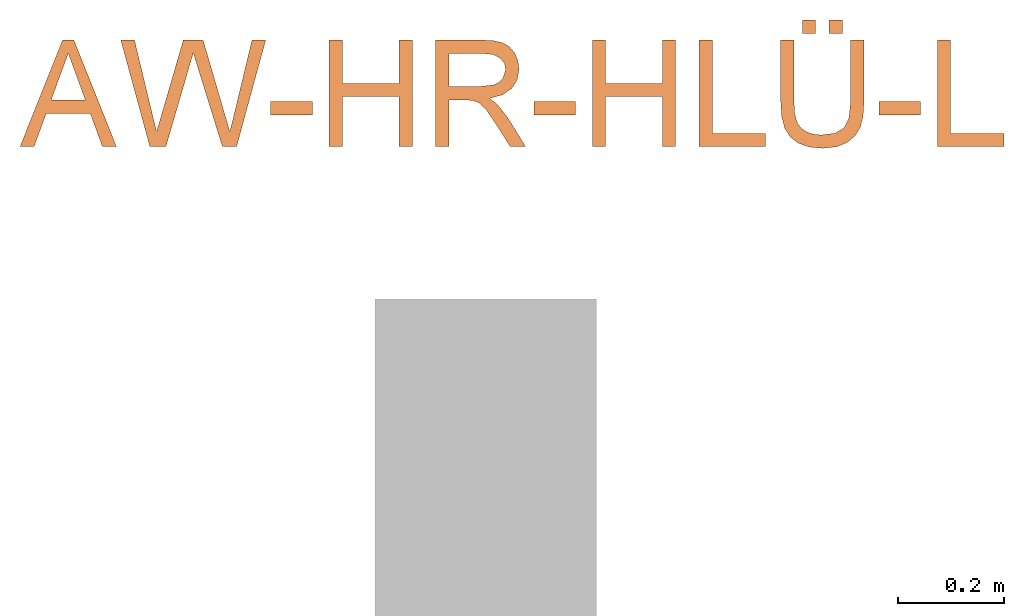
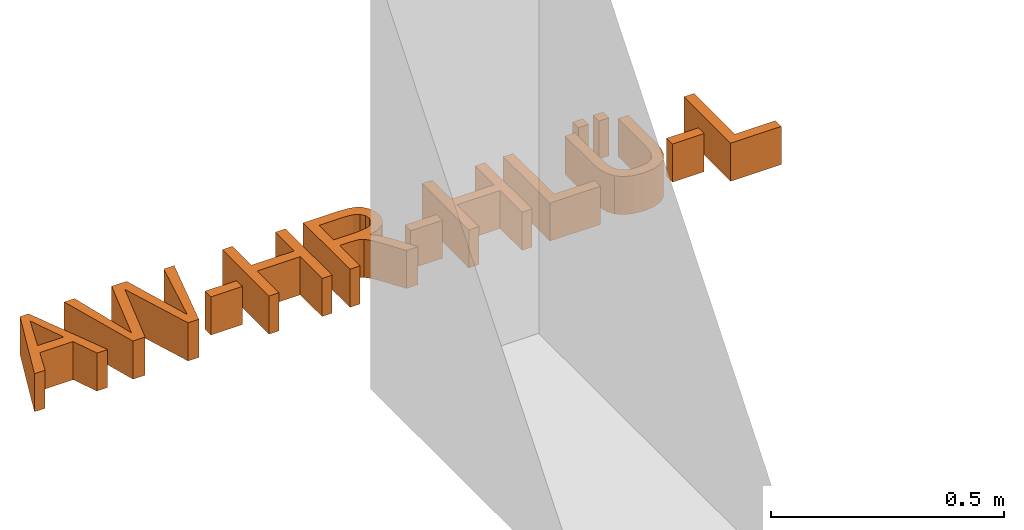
# Not in any storey, part 2 of 2: 1 proxy.
"""IFC2X3 model written with IfcOpenShell, lengths in metres."""

from ifc_helpers import new_model, entity, si_unit, converted_unit, derived_unit, direction, frame, frame_2d, origin, place, context, subcontext, project, spatial, polyline, rectangle, outline, extrude, type_object, element, save


model = new_model("IFC2X3")

# Units and contexts
model_context = context("Model", 3, precision=1e-05, world=origin(), true_north=direction((6.123031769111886e-17, 1.0)))
body_context = subcontext(model_context, "Body", "Model", "MODEL_VIEW")
ifc_project = project(units=[si_unit("LENGTHUNIT", "METRE"), si_unit("AREAUNIT", "SQUARE_METRE"), si_unit("VOLUMEUNIT", "CUBIC_METRE"), converted_unit("PLANEANGLEUNIT", "DEGREE", entity("IfcRatioMeasure", 0.017453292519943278), si_unit("PLANEANGLEUNIT", "RADIAN"), dimensions=[0, 0, 0, 0, 0, 0, 0]), si_unit("MASSUNIT", "GRAM", prefix="KILO"), derived_unit("MASSDENSITYUNIT", [(si_unit("MASSUNIT", "GRAM", prefix="KILO"), 1), (si_unit("LENGTHUNIT", "METRE"), -3)]), derived_unit("MOMENTOFINERTIAUNIT", [(si_unit("LENGTHUNIT", "METRE"), 4)]), si_unit("TIMEUNIT", "SECOND"), si_unit("FREQUENCYUNIT", "HERTZ"), si_unit("THERMODYNAMICTEMPERATUREUNIT", "DEGREE_CELSIUS"), derived_unit("THERMALTRANSMITTANCEUNIT", [(si_unit("MASSUNIT", "GRAM", prefix="KILO"), 1), (si_unit("THERMODYNAMICTEMPERATUREUNIT", "KELVIN"), -1), (si_unit("TIMEUNIT", "SECOND"), -3)]), derived_unit("VOLUMETRICFLOWRATEUNIT", [(si_unit("LENGTHUNIT", "METRE"), 3), (si_unit("TIMEUNIT", "SECOND"), -1)]), derived_unit("MASSFLOWRATEUNIT", [(si_unit("MASSUNIT", "GRAM", prefix="KILO"), 1), (si_unit("TIMEUNIT", "SECOND"), -1)]), derived_unit("ROTATIONALFREQUENCYUNIT", [(si_unit("TIMEUNIT", "SECOND"), -1)]), si_unit("ELECTRICCURRENTUNIT", "AMPERE"), si_unit("ELECTRICVOLTAGEUNIT", "VOLT"), si_unit("POWERUNIT", "WATT"), si_unit("FORCEUNIT", "NEWTON", prefix="KILO"), si_unit("ILLUMINANCEUNIT", "LUX"), si_unit("LUMINOUSFLUXUNIT", "LUMEN"), si_unit("LUMINOUSINTENSITYUNIT", "CANDELA"), derived_unit("USERDEFINED", [(si_unit("MASSUNIT", "GRAM", prefix="KILO"), -1), (si_unit("LENGTHUNIT", "METRE"), -2), (si_unit("TIMEUNIT", "SECOND"), 3), (si_unit("LUMINOUSFLUXUNIT", "LUMEN"), 1)]), derived_unit("SOUNDPOWERUNIT", [(si_unit("MASSUNIT", "GRAM", prefix="KILO"), 1), (si_unit("LENGTHUNIT", "METRE"), 2), (si_unit("TIMEUNIT", "SECOND"), -3)]), derived_unit("SOUNDPRESSUREUNIT", [(si_unit("MASSUNIT", "GRAM", prefix="KILO"), 1), (si_unit("LENGTHUNIT", "METRE"), -1), (si_unit("TIMEUNIT", "SECOND"), -2)]), derived_unit("LINEARVELOCITYUNIT", [(si_unit("LENGTHUNIT", "METRE"), 1), (si_unit("TIMEUNIT", "SECOND"), -1)]), si_unit("PRESSUREUNIT", "PASCAL"), derived_unit("USERDEFINED", [(si_unit("LENGTHUNIT", "METRE"), -2), (si_unit("MASSUNIT", "GRAM", prefix="KILO"), 1), (si_unit("TIMEUNIT", "SECOND"), -2)]), derived_unit("LINEARFORCEUNIT", [(si_unit("MASSUNIT", "GRAM", prefix="KILO"), 1), (si_unit("LENGTHUNIT", "METRE"), 1), (si_unit("TIMEUNIT", "SECOND"), -2), (si_unit("LENGTHUNIT", "METRE"), -1)]), derived_unit("PLANARFORCEUNIT", [(si_unit("MASSUNIT", "GRAM", prefix="KILO"), 1), (si_unit("LENGTHUNIT", "METRE"), 1), (si_unit("TIMEUNIT", "SECOND"), -2), (si_unit("LENGTHUNIT", "METRE"), -2)])], contexts=[model_context])

# Site
site_placement = place(None, origin())
site = spatial("IfcSite", under=ifc_project, at=site_placement, Name="Default", CompositionType="ELEMENT")

# Proxy
building_element_proxy_type = type_object("IfcBuildingElementProxyType", Name="Modelltext:600mm Arial", PredefinedType="NOTDEFINED")
proxy_placement = place(site_placement, origin())
element("IfcBuildingElementProxy", 1, at=proxy_placement, inside=site, type_object=building_element_proxy_type, Name="Modelltext:600mm Arial", ObjectType="Modelltext:600mm Arial", context=body_context, shape_type="SweptSolid", body=[
    extrude(outline(polyline([(-0.09088524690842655, -0.0659244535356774), (-0.06434869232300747, -0.0659244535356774), (-0.04139285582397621, -0.003139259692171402), (0.04135606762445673, -0.003139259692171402), (0.06436095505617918, -0.0659244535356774), (0.09089750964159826, -0.0659244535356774), (0.010699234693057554, 0.1349881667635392), (-0.01068697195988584, 0.1349881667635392), (-0.09088524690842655, -0.0659244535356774)]), holes=[polyline([(-0.03217128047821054, 0.021974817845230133), (-0.012501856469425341, 0.07568558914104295), (6.1313665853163e-06, 0.10987408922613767), (0.01408374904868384, 0.07136910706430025), (0.032183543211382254, 0.021974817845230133), (-0.03217128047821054, 0.021974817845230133)])]), frame((7.084400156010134, 24.273217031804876, 0.0)), (0.0, 0.0, 1.0), 0.1),
    extrude(outline(polyline([(-0.08129804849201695, -0.1077055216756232), (-0.050984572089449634, -0.1077055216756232), (-0.0070839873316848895, 0.042880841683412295), (0.0004698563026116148, 0.06892688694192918), (0.007189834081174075, 0.047295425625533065), (0.05535784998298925, -0.1077055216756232), (0.08218871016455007, -0.1077055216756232), (0.1370276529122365, 0.09320709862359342), (0.11112876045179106, 0.09320709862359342), (0.07904945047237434, -0.040015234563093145), (0.069533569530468, -0.07959933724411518), (0.048000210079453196, -0.00592483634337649), (0.019060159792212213, 0.09320709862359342), (-0.018267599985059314, 0.09320709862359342), (-0.05809695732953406, -0.043546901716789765), (-0.06859385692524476, -0.07959933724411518), (-0.07840404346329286, -0.038838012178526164), (-0.11018904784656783, 0.09320709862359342), (-0.1360879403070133, 0.09320709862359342), (-0.08129804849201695, -0.1077055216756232)])), frame((7.319380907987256, 24.314998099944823, 0.0)), (0.0, 0.0, 1.0), 0.1),
    extrude(rectangle(XDim=0.0784814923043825, YDim=0.02511407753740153, at=frame_2d((0.0, 2.1658022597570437e-15), x_axis=(1.0, 0.0))), frame((7.50506708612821, 24.27949555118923, 0.0)), (0.0, 0.0, 1.0), 0.1),
    extrude(outline(polyline([(-0.07848149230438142, -0.10254914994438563), (-0.0533674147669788, -0.10254914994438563), (-0.0533674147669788, -0.008371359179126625), (0.05336741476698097, -0.008371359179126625), (0.05336741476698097, -0.10254914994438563), (0.0784814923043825, -0.10254914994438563), (0.0784814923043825, 0.09836347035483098), (0.05336741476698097, 0.09836347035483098), (0.05336741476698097, 0.01674271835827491), (-0.0533674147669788, 0.01674271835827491), (-0.0533674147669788, 0.09836347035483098), (-0.07848149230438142, 0.09836347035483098), (-0.07848149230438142, -0.10254914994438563)])), frame((7.654181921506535, 24.309841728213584, 0.0)), (0.0, 0.0, 1.0), 0.1),
    extrude(outline(polyline([(-0.10313418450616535, -0.10350768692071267), (-0.07802010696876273, -0.10350768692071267), (-0.07802010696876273, -0.01560841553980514), (-0.04770663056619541, -0.01560841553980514), (-0.0331385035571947, -0.016491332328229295), (-0.021194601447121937, -0.02127379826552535), (-0.007926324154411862, -0.03429682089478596), (0.010958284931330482, -0.06186344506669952), (0.037102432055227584, -0.10350768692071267), (0.06628773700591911, -0.10350768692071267), (0.032785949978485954, -0.04906115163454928), (0.012429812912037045, -0.023211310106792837), (-0.00184400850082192, -0.012469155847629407), (0.022896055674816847, -0.005810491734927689), (0.040217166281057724, 0.006219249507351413), (0.05042589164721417, 0.022626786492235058), (0.05382880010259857, 0.04241883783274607), (0.051774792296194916, 0.05832973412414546), (0.04561276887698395, 0.07280589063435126), (0.03601104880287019, 0.08448001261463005), (0.023637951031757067, 0.09198480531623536), (0.006709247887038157, 0.09604990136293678), (-0.016559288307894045, 0.09740493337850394), (-0.10313418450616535, 0.09740493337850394), (-0.10313418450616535, -0.10350768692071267)]), holes=[polyline([(-0.07802010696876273, 0.009505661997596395), (-0.07802010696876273, 0.0722908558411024), (-0.015480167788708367, 0.0722908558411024), (0.0043915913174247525, 0.07012035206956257), (0.018095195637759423, 0.0636088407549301), (0.02605984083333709, 0.053737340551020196), (0.028714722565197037, 0.04148687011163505), (0.02314744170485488, 0.024441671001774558), (0.016292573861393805, 0.017684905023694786), (0.006862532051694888, 0.013061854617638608), (-0.02180773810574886, 0.009505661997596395), (-0.07802010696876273, 0.009505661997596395)])]), frame((7.879747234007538, 24.31080026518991, 0.0)), (0.0, 0.0, 1.0), 0.1),
    extrude(rectangle(XDim=0.0784814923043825, YDim=0.02511407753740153, at=frame_2d((0.0, 2.1658022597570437e-15), x_axis=(1.0, 0.0))), frame((8.001070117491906, 24.27949555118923, 0.0)), (0.0, 0.0, 1.0), 0.1),
    extrude(outline(polyline([(-0.0784814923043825, -0.10254914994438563), (-0.053367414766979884, -0.10254914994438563), (-0.053367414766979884, -0.008371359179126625), (0.05336741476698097, -0.008371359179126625), (0.05336741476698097, -0.10254914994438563), (0.0784814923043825, -0.10254914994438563), (0.0784814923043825, 0.09836347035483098), (0.05336741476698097, 0.09836347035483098), (0.05336741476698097, 0.01674271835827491), (-0.053367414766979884, 0.01674271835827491), (-0.053367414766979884, 0.09836347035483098), (-0.0784814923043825, 0.09836347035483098), (-0.0784814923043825, -0.10254914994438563)])), frame((8.150184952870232, 24.309841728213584, 0.0)), (0.0, 0.0, 1.0), 0.1),
    extrude(outline(polyline([(-0.05022815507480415, -0.07534223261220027), (0.07534223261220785, -0.07534223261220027), (0.07534223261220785, -0.05022815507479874), (-0.025114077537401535, -0.05022815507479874), (-0.025114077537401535, 0.12557038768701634), (-0.05022815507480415, 0.12557038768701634), (-0.05022815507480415, -0.07534223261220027)])), frame((8.322844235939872, 24.282634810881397, 0.0)), (0.0, 0.0, 1.0), 0.1),
    extrude(rectangle(XDim=0.025114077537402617, YDim=0.02511407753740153, at=frame_2d((-5.412337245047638e-16, 2.1658022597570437e-15), x_axis=(1.0, 0.0))), frame((8.479807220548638, 24.433319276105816, 0.0)), (0.0, 0.0, 1.0), 0.1),
    extrude(rectangle(XDim=0.0784814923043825, YDim=0.02511407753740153, at=frame_2d((0.0, 2.1658022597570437e-15), x_axis=(1.0, 0.0))), frame((8.65089687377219, 24.27949555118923, 0.0)), (0.0, 0.0, 1.0), 0.1),
    extrude(outline(polyline([(-0.050228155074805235, -0.07534223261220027), (0.07534223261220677, -0.07534223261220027), (0.07534223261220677, -0.05022815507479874), (-0.025114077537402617, -0.05022815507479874), (-0.025114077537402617, 0.12557038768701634), (-0.050228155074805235, 0.12557038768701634), (-0.050228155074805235, -0.07534223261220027)])), frame((8.77175837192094, 24.282634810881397, 0.0)), (0.0, 0.0, 1.0), 0.1),
    extrude(outline(polyline([(-0.13955778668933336, -0.0559653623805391), (-0.13955778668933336, -0.08107943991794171), (-0.02365043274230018, -0.08107943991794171), (0.0034931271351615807, -0.07937492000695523), (0.0243949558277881, -0.07426136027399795), (0.040520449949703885, -0.0647086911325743), (0.05333500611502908, -0.04968684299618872), (0.0617043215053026, -0.02915902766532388), (0.06449409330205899, -0.003088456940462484), (0.06206607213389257, 0.022411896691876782), (0.054782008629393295, 0.042798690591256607), (0.0428932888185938, 0.05807805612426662), (0.02665129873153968, 0.06825612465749), (0.004866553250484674, 0.07397668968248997), (-0.02365043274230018, 0.07588354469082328), (-0.13955778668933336, 0.07588354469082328), (-0.13955778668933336, 0.05076946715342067), (-0.024533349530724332, 0.05076946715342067), (-0.0019637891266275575, 0.049530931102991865), (0.013750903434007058, 0.04581532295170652), (0.024634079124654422, 0.03908308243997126), (0.03270908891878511, 0.02879464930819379), (0.0377122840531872, 0.01537921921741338), (0.03938001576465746, -0.0007340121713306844), (0.03608134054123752, -0.0262772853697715), (0.026185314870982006, -0.043261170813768), (0.006908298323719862, -0.05278931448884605), (-0.024533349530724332, -0.0559653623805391), (-0.13955778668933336, -0.0559653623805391)])), frame((8.50232335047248, 24.268647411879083, 0.0), z_axis=(0.0, 0.0, -1.0), x_axis=(0.0, -1.0, 0.0)), (0.0, 0.0, -1.0), 0.1),
    extrude(rectangle(XDim=0.025114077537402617, YDim=0.02511407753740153, at=frame_2d((5.412337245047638e-16, 2.1658022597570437e-15), x_axis=(1.0, 0.0))), frame((8.530035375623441, 24.433319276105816, 0.0)), (0.0, 0.0, 1.0), 0.1),
])

save(model, "model.ifc")
